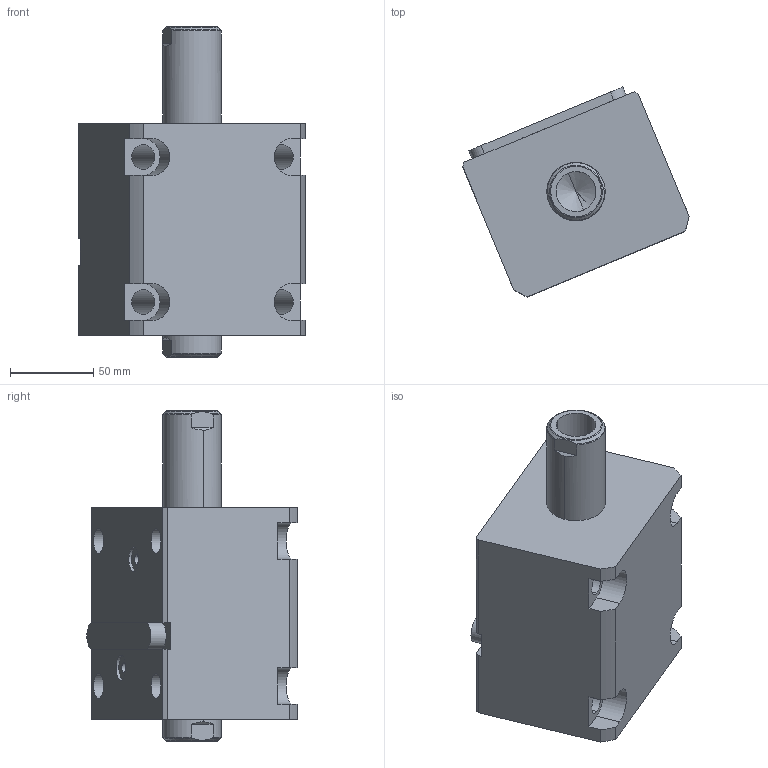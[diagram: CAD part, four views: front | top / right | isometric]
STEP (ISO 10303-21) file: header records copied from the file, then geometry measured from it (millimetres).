
FILE_DESCRIPTION (( 'STEP AP214' ), '1' );
FILE_NAME ('chtb-lwm63x45n_asm.STEP', '2018-05-22T02:17:49', ( 'Windows' ), ( 'Microsoft' ), 'SwSTEP 2.0', 'SolidWorks 2015', '' );
FILE_SCHEMA (( 'AUTOMOTIVE_DESIGN' ));
Length unit declared in the file: millimetre
Products named in the file (5): CHTB-SW63X45NHSG; CHTB-LWM63X45NBT; CHTB-LA63PJ; CHTB-63QG; chtb-lwm63x45n_asm
Assembly tree (4 placements, depth 2):
  chtb-lwm63x45n_asm
    CHTB-63QG
    CHTB-LA63PJ
    CHTB-LWM63X45NBT
    CHTB-SW63X45NHSG
Bounding box: 135.77 x 126.06 x 198 mm (x, y, z)
Volume: 1162748 mm3; surface area: 166562.7 mm2
Topology: 4 solids, 4 shells, 186 faces, 543 edges, 367 vertices
Faces by surface type: cylinder 103, plane 47, bspline 12, cone 12, torus 12
Entity records: 18665 total; most frequent: CARTESIAN_POINT 13839, ORIENTED_EDGE 1070, DIRECTION 834, EDGE_CURVE 535, VERTEX_POINT 367, AXIS2_PLACEMENT_3D 318, EDGE_LOOP 212, VECTOR 198
